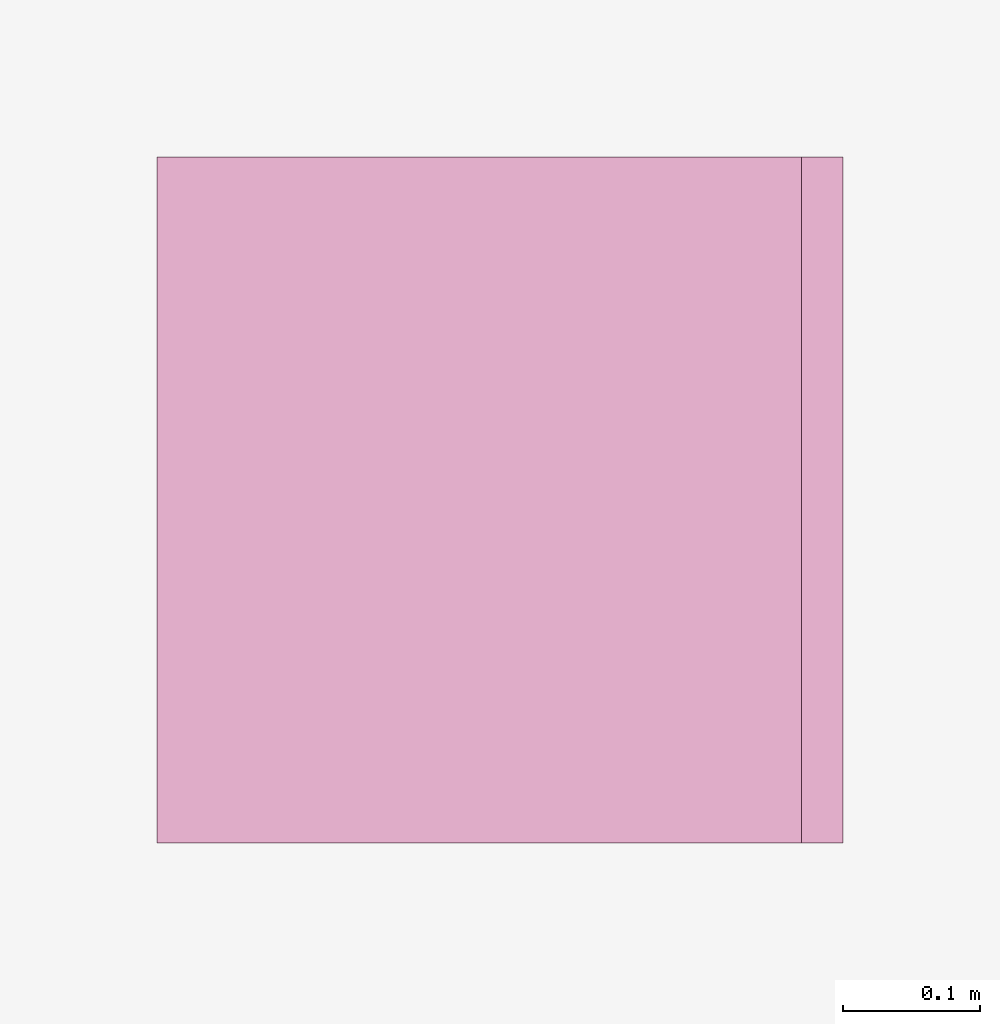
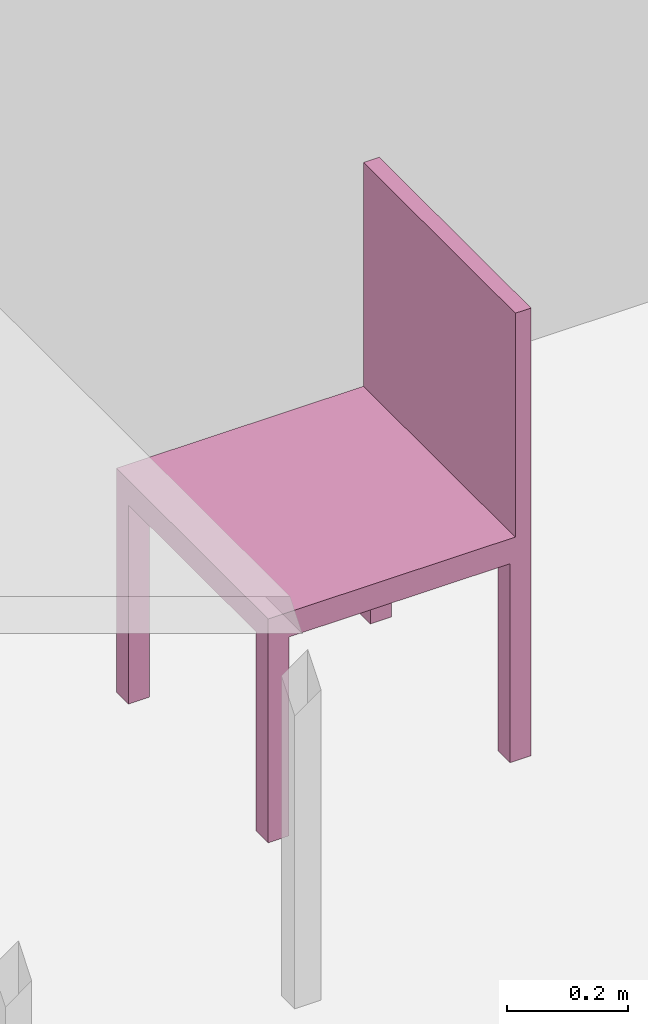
"""IFC4 building model written with IfcOpenShell, lengths in metres."""

import ifcopenshell
import ifcopenshell.guid

model = None  # the IFC model being written
_history = None  # IfcOwnerHistory: only IFC2X3 demands one
_inside = {}  # id of a spatial element -> (the spatial element, [elements in it])
_under = {}  # id of a project, library or spatial element -> (it, [spatial elements below it])
_declared = {}  # id of a project -> (the project, [libraries it declares])
_typed = {}  # id of a type object -> (the type object, [elements of that type])
_made_of = {}  # id of a material, layer set ... -> (it, [elements and type objects made of it])


def new_model(schema):
    """Start an empty IFC model of exactly this schema.

    Asked for "IFC4X3", IfcOpenShell would pick the latest addendum, in which some entities
    have other attributes; the version numbers below select the first issue.
    IFC2X3 requires an IfcOwnerHistory on every rooted entity: one is made here for all.
    """
    global model, _history
    if schema == "IFC4X3":
        model = ifcopenshell.file(schema_version=(4, 3, 0, 0))
    else:
        model = ifcopenshell.file(schema=schema)
    _inside.clear()
    _under.clear()
    _declared.clear()
    _typed.clear()
    _made_of.clear()
    _history = None
    if model.schema == "IFC2X3":
        org = make("IfcOrganization", Name="unknown")
        user = make(
            "IfcPersonAndOrganization",
            ThePerson=make("IfcPerson", FamilyName="unknown"),
            TheOrganization=org,
        )
        app = make(
            "IfcApplication",
            ApplicationDeveloper=org,
            Version="unknown",
            ApplicationFullName="unknown",
            ApplicationIdentifier="unknown",
        )
        _history = make(
            "IfcOwnerHistory",
            OwningUser=user,
            OwningApplication=app,
            ChangeAction="ADDED",
            CreationDate=0,
        )
    return model


def make(cls, **values):
    """One entity of the class cls with the attributes given. An attribute that is None is left unset."""
    return model.create_entity(
        cls, **{name: value for name, value in values.items() if value is not None}
    )


def entity(cls, *values):
    """Any entity or typed value of the class cls, its attributes in the order of the schema. None: left unset."""
    e = model.create_entity(cls)
    for i, value in enumerate(values):
        if value is not None:
            e[i] = value
    return e


def rooted(cls, **values):
    """An entity with a GlobalId (a new one), such as an element, a storey or a relation."""
    return make(cls, GlobalId=ifcopenshell.guid.new(), OwnerHistory=_history, **values)


def si_unit(unit_type, name, prefix=None):
    """IfcSIUnit, for example si_unit("LENGTHUNIT", "METRE", prefix="MILLI")."""
    return make("IfcSIUnit", UnitType=unit_type, Prefix=prefix, Name=name)


def converted_unit(unit_type, name, factor, base, dimensions=None, offset=None):
    """IfcConversionBasedUnit, such as the inch: factor (a typed value) times the base unit."""
    return make(
        "IfcConversionBasedUnit"
        if offset is None
        else "IfcConversionBasedUnitWithOffset",
        ConversionOffset=offset,
        Dimensions=None
        if dimensions is None
        else entity("IfcDimensionalExponents", *dimensions),
        UnitType=unit_type,
        Name=name,
        ConversionFactor=make(
            "IfcMeasureWithUnit", ValueComponent=factor, UnitComponent=base
        ),
    )


def derived_unit(unit_type, elements):
    """IfcDerivedUnit: a product of units, each with its exponent."""
    return make(
        "IfcDerivedUnit",
        Elements=[
            make("IfcDerivedUnitElement", Unit=unit, Exponent=power)
            for unit, power in elements
        ],
        UnitType=unit_type,
    )


def assignment(units):
    """IfcUnitAssignment: the units of a project."""
    return None if units is None else make("IfcUnitAssignment", Units=units)


def point(xyz):
    """IfcCartesianPoint."""
    return None if xyz is None else make("IfcCartesianPoint", Coordinates=xyz)


def direction(xyz):
    """IfcDirection."""
    return None if xyz is None else make("IfcDirection", DirectionRatios=xyz)


def frame(location, z_axis=None, x_axis=None):
    """IfcAxis2Placement3D, a coordinate frame: its origin and axes. An axis left out is left unset."""
    return make(
        "IfcAxis2Placement3D",
        Location=point(location),
        Axis=direction(z_axis),
        RefDirection=direction(x_axis),
    )


def origin():
    """The frame at (0, 0, 0) with its axes left unset."""
    return frame((0.0, 0.0, 0.0))


def place(relative_to, where):
    """IfcLocalPlacement: puts the frame where relative to a parent placement (None: the world)."""
    return make(
        "IfcLocalPlacement", PlacementRelTo=relative_to, RelativePlacement=where
    )


def context(
    kind, dimensions, precision=None, world=None, true_north=None, identifier=None
):
    """IfcGeometricRepresentationContext, for example the 3D "Model" context."""
    return make(
        "IfcGeometricRepresentationContext",
        ContextIdentifier=identifier,
        ContextType=kind,
        CoordinateSpaceDimension=dimensions,
        Precision=precision,
        WorldCoordinateSystem=world,
        TrueNorth=true_north,
    )


def subcontext(parent, identifier, kind, view, scale=None):
    """IfcGeometricRepresentationSubContext, for example "Body" below "Model"."""
    return make(
        "IfcGeometricRepresentationSubContext",
        ContextIdentifier=identifier,
        ContextType=kind,
        ParentContext=parent,
        TargetScale=scale,
        TargetView=view,
    )


def project(units=None, contexts=None):
    """IfcProject with its units and contexts."""
    return rooted(
        "IfcProject",
        Name="project",
        RepresentationContexts=contexts,
        UnitsInContext=assignment(units),
    )


def spatial(cls, under=None, at=None, **own):
    """A site, building, storey or space (cls), placed at a placement, below another one or the project."""
    s = rooted(cls, ObjectPlacement=at, **own)
    if under is not None:
        _under.setdefault(under.id(), (under, []))[1].append(s)
    return s


def faces_of(points, faces, orient=None, outer=None):
    """IfcFace entities. A face is a list of loops; a loop is a list of indices into points, from 0.

    orient and outer hold one flag for each loop. By default every Orientation is true, the
    first loop of a face is its IfcFaceOuterBound and the others are IfcFaceBound.
    """
    made = []
    for i, loops in enumerate(faces):
        bounds = []
        for j, loop in enumerate(loops):
            is_outer = j == 0 if outer is None else outer[i][j]
            bounds.append(
                make(
                    "IfcFaceOuterBound" if is_outer else "IfcFaceBound",
                    Bound=make("IfcPolyLoop", Polygon=[points[k] for k in loop]),
                    Orientation=True if orient is None else orient[i][j],
                )
            )
        made.append(make("IfcFace", Bounds=bounds))
    return made


def faceted_brep(points, faces, orient=None, outer=None, voids=None):
    """IfcFacetedBrep: a solid bounded by flat faces; with voids (closed shells), ...WithVoids."""
    shared = [point(p) for p in points]
    hull = make("IfcClosedShell", CfsFaces=faces_of(shared, faces, orient, outer))
    if voids is None:
        return make("IfcFacetedBrep", Outer=hull)
    return make(
        "IfcFacetedBrepWithVoids",
        Outer=hull,
        Voids=[
            make(cls, CfsFaces=faces_of(shared, fs, o, b)) for cls, fs, o, b in voids
        ],
    )


def shape(context_of_items, identifier, shape_type, items):
    """IfcShapeRepresentation: the items that make up one representation, for example the "Body"."""
    return make(
        "IfcShapeRepresentation",
        ContextOfItems=context_of_items,
        RepresentationIdentifier=identifier,
        RepresentationType=shape_type,
        Items=items,
    )


def made_of(thing, what):
    """Note that an element or type object is made of a material, layer set ...; save() writes the relation."""
    if what is not None:
        _made_of.setdefault(what.id(), (what, []))[1].append(thing)
    return thing


def element(
    cls,
    number,
    at=None,
    inside=None,
    cuts=None,
    type_object=None,
    material=None,
    context=None,
    identifier="Body",
    shape_type=None,
    held_by="IfcProductDefinitionShape",
    body=None,
    shapes=None,
    **own,
):
    """One element of the class cls, such as IfcWall. Its Tag is "e" and its number.

    at: its placement. inside: the storey or other place that contains it. cuts: it is an
    opening in that element (IfcRelVoidsElement). A single representation is given by context,
    identifier, shape_type and body (its items); several are given by shapes. held_by: the class
    of the entity that holds the representations. save() writes the other relations.
    """
    e = rooted(cls, Tag="e%d" % number, ObjectPlacement=at, **own)
    if body is not None:
        shapes = [shape(context, identifier, shape_type, body)]
    if shapes is not None:
        e.Representation = make(held_by, Representations=shapes)
    if inside is not None:
        _inside.setdefault(inside.id(), (inside, []))[1].append(e)
    if cuts is not None:
        rooted(
            "IfcRelVoidsElement", RelatingBuildingElement=cuts, RelatedOpeningElement=e
        )
    if type_object is not None:
        _typed.setdefault(type_object.id(), (type_object, []))[1].append(e)
    return made_of(e, material)


def aggregate(whole, parts):
    """IfcRelAggregates: a whole, such as a stair, and the parts it consists of."""
    return rooted("IfcRelAggregates", RelatingObject=whole, RelatedObjects=parts)


def save(model, path):
    """Write the relations noted so far, then the file.

    IfcRelAggregates (storeys below a building ...), IfcRelContainedInSpatialStructure (elements
    in a storey), IfcRelDefinesByType, IfcRelAssociatesMaterial and IfcRelDeclares: one each for
    every whole, place, type object, material and project.
    """
    for whole, parts in _under.values():
        aggregate(whole, parts)
    for where, things in _inside.values():
        rooted(
            "IfcRelContainedInSpatialStructure",
            RelatedElements=things,
            RelatingStructure=where,
        )
    for kind, things in _typed.values():
        rooted("IfcRelDefinesByType", RelatedObjects=things, RelatingType=kind)
    for what, things in _made_of.values():
        rooted("IfcRelAssociatesMaterial", RelatedObjects=things, RelatingMaterial=what)
    for by, libraries in _declared.values():
        rooted("IfcRelDeclares", RelatingContext=by, RelatedDefinitions=libraries)
    model.write(path)


model = new_model("IFC4")

# Units and contexts
model_context = context("Model", 3, precision=1e-05, world=origin())
body_context = subcontext(model_context, "Body", "Model", "MODEL_VIEW")
ifc_project = project(units=[si_unit("LENGTHUNIT", "METRE"), si_unit("AREAUNIT", "SQUARE_METRE"), si_unit("VOLUMEUNIT", "CUBIC_METRE"), si_unit("MASSUNIT", "GRAM", prefix="KILO"), converted_unit("PLANEANGLEUNIT", "DEGREE", entity("IfcPlaneAngleMeasure", 0.0174532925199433), si_unit("PLANEANGLEUNIT", "RADIAN"), dimensions=[0, 0, 0, 0, 0, 0, 0]), derived_unit("THERMALTRANSMITTANCEUNIT", [(si_unit("POWERUNIT", "WATT"), 1), (si_unit("THERMODYNAMICTEMPERATUREUNIT", "KELVIN"), -1), (si_unit("LENGTHUNIT", "METRE"), -2)]), derived_unit("VOLUMETRICFLOWRATEUNIT", [(si_unit("LENGTHUNIT", "METRE"), 3), (converted_unit("TIMEUNIT", "hour", entity("IfcTimeMeasure", 3600.0), si_unit("TIMEUNIT", "SECOND"), dimensions=[0, 0, 1, 0, 0, 0, 0]), -1), (si_unit("LENGTHUNIT", "METRE"), -1)])], contexts=[model_context])

# Building, storeys
building_placement = place(None, origin())
building = spatial("IfcBuilding", under=ifc_project, at=building_placement, Name="HABITATGE PLURIFAMILIAR", CompositionType="ELEMENT")
storey_1_placement = place(building_placement, frame((0.0, 0.0, 18.29)))
storey_1 = spatial("IfcBuildingStorey", under=building, at=storey_1_placement, Name="PLANTA CINQUENA", CompositionType="ELEMENT", Elevation=18.29)
storey_2_placement = place(storey_1_placement, frame((0.0, 0.0, 15.28)))
storey_2 = spatial("IfcBuildingStorey", under=storey_1, at=storey_2_placement, Name="NOU", CompositionType="PARTIAL")

# Furniture
furniture_placement = place(storey_2_placement, frame((425.48841629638, 27.0314310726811, -15.2759081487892)))
element("IfcFurniture", 1, at=furniture_placement, inside=storey_2, Name="Cadira d'Oficina_P5", context=body_context, shape_type="Brep", body=[
    faceted_brep([(0.0, 0.50000000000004, 0.4), (0.0, 0.0, 0.4), (0.5, 0.0, 0.4), (0.5, 0.5, 0.4), (0.5, 0.5, 0.45), (0.5, 0.0, 0.45), (0.0, 0.0, 0.45), (0.0, 0.50000000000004, 0.45)], [[[0, 1, 2, 3]], [[4, 5, 6, 7]], [[3, 4, 7, 0]], [[2, 5, 4, 3]], [[1, 6, 5, 2]], [[0, 7, 6, 1]]], orient=[[False], [False], [False], [False], [False], [False]]),
    faceted_brep([(0.46, 0.0, 0.0), (0.5, 0.0, 0.0), (0.5, 0.04, 0.0), (0.46, 0.0400000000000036, 0.0), (0.46, 0.0400000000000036, 0.4), (0.5, 0.04, 0.4), (0.5, 0.0, 0.4), (0.46, 0.0, 0.4)], [[[0, 1, 2, 3]], [[4, 5, 6, 7]], [[3, 4, 7, 0]], [[2, 5, 4, 3]], [[1, 6, 5, 2]], [[0, 7, 6, 1]]], orient=[[False], [False], [False], [False], [False], [False]]),
    faceted_brep([(0.0, 0.0, 0.0), (0.04, 0.0, 0.0), (0.04, 0.0400000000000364, 0.0), (0.0, 0.04000000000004, 0.0), (0.0, 0.04000000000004, 0.4), (0.04, 0.0400000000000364, 0.4), (0.04, 0.0, 0.4), (0.0, 0.0, 0.4)], [[[0, 1, 2, 3]], [[4, 5, 6, 7]], [[3, 4, 7, 0]], [[2, 5, 4, 3]], [[1, 6, 5, 2]], [[0, 7, 6, 1]]], orient=[[False], [False], [False], [False], [False], [False]]),
    faceted_brep([(0.46, 0.460000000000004, 0.0), (0.5, 0.46, 0.0), (0.5, 0.5, 0.0), (0.46, 0.500000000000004, 0.0), (0.46, 0.500000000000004, 0.4), (0.5, 0.5, 0.4), (0.5, 0.46, 0.4), (0.46, 0.460000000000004, 0.4)], [[[0, 1, 2, 3]], [[4, 5, 6, 7]], [[3, 4, 7, 0]], [[2, 5, 4, 3]], [[1, 6, 5, 2]], [[0, 7, 6, 1]]], orient=[[False], [False], [False], [False], [False], [False]]),
    faceted_brep([(0.0, 0.46000000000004, 0.0), (0.04, 0.460000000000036, 0.0), (0.04, 0.500000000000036, 0.0), (0.0, 0.50000000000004, 0.0), (0.0, 0.50000000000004, 0.4), (0.04, 0.500000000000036, 0.4), (0.04, 0.460000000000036, 0.4), (0.0, 0.46000000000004, 0.4)], [[[0, 1, 2, 3]], [[4, 5, 6, 7]], [[3, 4, 7, 0]], [[2, 5, 4, 3]], [[1, 6, 5, 2]], [[0, 7, 6, 1]]], orient=[[False], [False], [False], [False], [False], [False]]),
    faceted_brep([(0.47, 0.0, 0.45), (0.5, 0.0, 0.45), (0.5, 0.5, 0.45), (0.47, 0.5, 0.45), (0.47, 0.5, 0.9), (0.5, 0.5, 0.9), (0.5, 0.0, 0.9), (0.47, 0.0, 0.9)], [[[0, 1, 2, 3]], [[4, 5, 6, 7]], [[3, 4, 7, 0]], [[2, 5, 4, 3]], [[1, 6, 5, 2]], [[0, 7, 6, 1]]], orient=[[False], [False], [False], [False], [False], [False]]),
])

save(model, "model.ifc")
